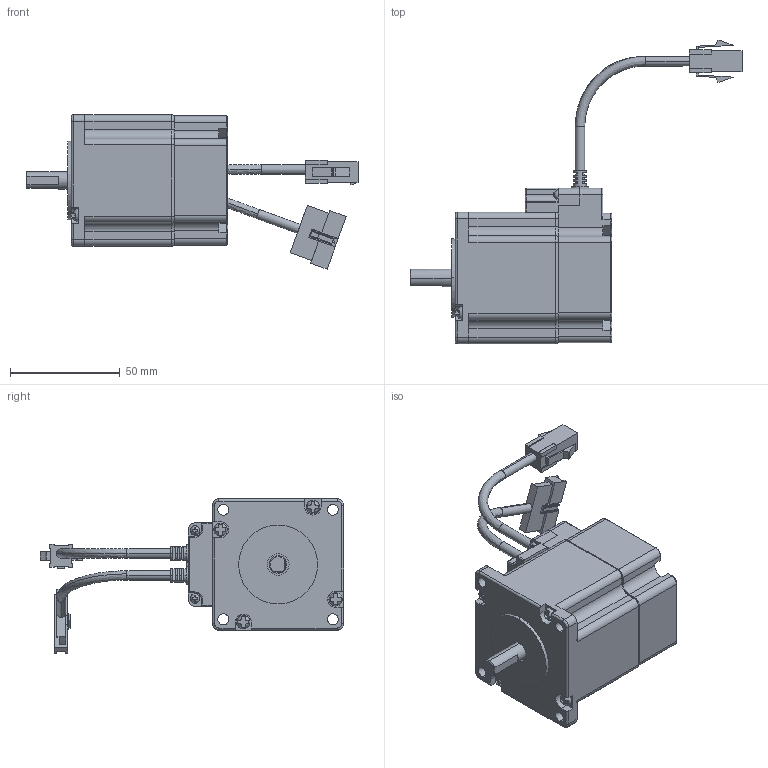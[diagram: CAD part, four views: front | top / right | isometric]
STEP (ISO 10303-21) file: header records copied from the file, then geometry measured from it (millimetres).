
FILE_DESCRIPTION (( 'STEP AP203' ), '1' );
FILE_NAME ('M11-MO-060-01-R00.STEP', '2014-12-21T07:02:09', ( 'Registered User' ), ( 'Microsoft Corporation' ), 'SwSTEP 2.0', 'SolidWorks 2013', '' );
FILE_SCHEMA (( 'CONFIG_CONTROL_DESIGN' ));
Length unit declared in the file: millimetre
Products named in the file (15): MainEzM-60M-assembly-1; MainEncoder_Cable_60-1-1; M11-EC-060-01-R00; Main60_Encoder_Plate-1-1; M11-EC-060-02-R00; MainM3-screw11-1-1; 60馨檜蝶馨檜綰; MainM3-screw12-1-1; M11-MO-060-01-R00; MainM3-screw8-1-1; MainM3-screw9-1-1; MainM3-screw7-1-1; M11-MO-060-01-R00(EzM-60S-01); MainM3-screw10-1-1; MainPower_Cable_60-1-1
Assembly tree (14 placements, depth 4):
  M11-MO-060-01-R00
    M11-MO-060-01-R00(EzM-60S-01)
    60馨檜蝶馨檜綰
      MainEzM-60M-assembly-1
        MainPower_Cable_60-1-1
        MainEncoder_Cable_60-1-1
        Main60_Encoder_Plate-1-1
        MainM3-screw11-1-1
        MainM3-screw12-1-1
        MainM3-screw8-1-1
        MainM3-screw9-1-1
        MainM3-screw7-1-1
        MainM3-screw10-1-1
      M11-EC-060-01-R00
      M11-EC-060-02-R00
Bounding box: 151.6 x 138.61 x 70.49 mm (x, y, z)
Volume: 181773.9 mm3; surface area: 55036.7 mm2
Topology: 12 solids, 12 shells, 927 faces, 2432 edges, 1577 vertices
Faces by surface type: plane 528, cylinder 339, bspline 30, torus 18, cone 8, sphere 4
Entity records: 31257 total; most frequent: CARTESIAN_POINT 6444, DIRECTION 4914, ORIENTED_EDGE 4816, EDGE_CURVE 2408, AXIS2_PLACEMENT_3D 1722, VERTEX_POINT 1577, VECTOR 1470, LINE 1470
